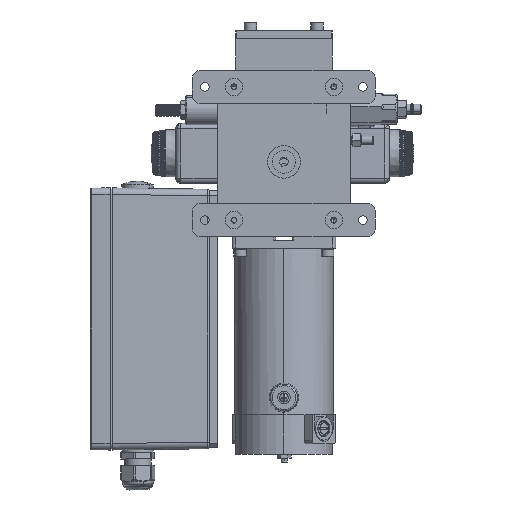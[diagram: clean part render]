
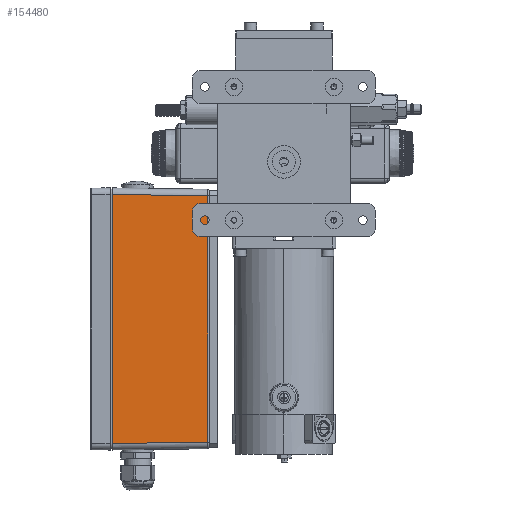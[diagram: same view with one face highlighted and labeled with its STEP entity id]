
A CAD part, front view. The second image highlights one B-rep face of the part: STEP entity #154480.
In plain terms, the highlighted planar face has unit normal (0.013, -1, 0).
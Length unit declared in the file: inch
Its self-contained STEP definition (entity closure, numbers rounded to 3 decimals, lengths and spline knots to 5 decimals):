
#9037 = VERTEX_POINT ( 'NONE', #98650 ) ;
#22139 = EDGE_CURVE ( 'NONE', #9037, #137435, #114918, .T. ) ;
#24220 = CARTESIAN_POINT ( 'NONE',  ( -0.28885, 0.09166, -3.76999 ) ) ;
#26641 = ORIENTED_EDGE ( 'NONE', *, *, #64783, .T. ) ;
#34047 = DIRECTION ( 'NONE',  ( 1., 0.013, 0.013 ) ) ;
#43264 = VECTOR ( 'NONE', #193256, 39.37008 ) ;
#45944 = LINE ( 'NONE', #110874, #136701 ) ;
#48939 = CARTESIAN_POINT ( 'NONE',  ( -0.28885, 0.09166, -11.17405 ) ) ;
#56433 = DIRECTION ( 'NONE',  ( 0.013, -1., 0. ) ) ;
#60086 = EDGE_LOOP ( 'NONE', ( #132048, #26641, #131961, #95088 ) ) ;
#63762 = LINE ( 'NONE', #128683, #43264 ) ;
#64783 = EDGE_CURVE ( 'NONE', #84215, #157348, #65885, .T. ) ;
#65885 = LINE ( 'NONE', #130802, #182007 ) ;
#69632 = CARTESIAN_POINT ( 'NONE',  ( -3.16339, 0.05403, -3.73236 ) ) ;
#84215 = VERTEX_POINT ( 'NONE', #24220 ) ;
#95088 = ORIENTED_EDGE ( 'NONE', *, *, #22139, .T. ) ;
#98650 = CARTESIAN_POINT ( 'NONE',  ( -3.16339, 0.05403, -11.21168 ) ) ;
#110874 = CARTESIAN_POINT ( 'NONE',  ( -0.28885, 0.09166, -9.44053 ) ) ;
#114918 = LINE ( 'NONE', #179565, #119007 ) ;
#119007 = VECTOR ( 'NONE', #34047, 39.37008 ) ;
#119225 = FACE_OUTER_BOUND ( 'NONE', #60086, .T. ) ;
#121348 = DIRECTION ( 'NONE',  ( 1., 0.013, 0. ) ) ;
#128683 = CARTESIAN_POINT ( 'NONE',  ( -3.16339, 0.05403, -11.40903 ) ) ;
#130802 = CARTESIAN_POINT ( 'NONE',  ( -0.28885, 0.09166, -3.76999 ) ) ;
#131961 = ORIENTED_EDGE ( 'NONE', *, *, #206781, .T. ) ;
#132048 = ORIENTED_EDGE ( 'NONE', *, *, #141639, .F. ) ;
#136701 = VECTOR ( 'NONE', #175550, 39.37008 ) ;
#137435 = VERTEX_POINT ( 'NONE', #48939 ) ;
#141639 = EDGE_CURVE ( 'NONE', #84215, #137435, #45944, .T. ) ;
#154480 = ADVANCED_FACE ( 'NONE', ( #119225 ), #183856, .T. ) ;
#157348 = VERTEX_POINT ( 'NONE', #69632 ) ;
#175550 = DIRECTION ( 'NONE',  ( 0., 0., -1. ) ) ;
#179565 = CARTESIAN_POINT ( 'NONE',  ( -3.16339, 0.05403, -11.21168 ) ) ;
#182007 = VECTOR ( 'NONE', #195389, 39.37008 ) ;
#183856 = PLANE ( 'NONE',  #206524 ) ;
#193256 = DIRECTION ( 'NONE',  ( 0., 0., -1. ) ) ;
#195389 = DIRECTION ( 'NONE',  ( -1., -0.013, 0.013 ) ) ;
#201881 = CARTESIAN_POINT ( 'NONE',  ( -3.20276, 0.05352, -11.40903 ) ) ;
#206524 = AXIS2_PLACEMENT_3D ( 'NONE', #201881, #56433, #121348 ) ;
#206781 = EDGE_CURVE ( 'NONE', #157348, #9037, #63762, .T. ) ;
